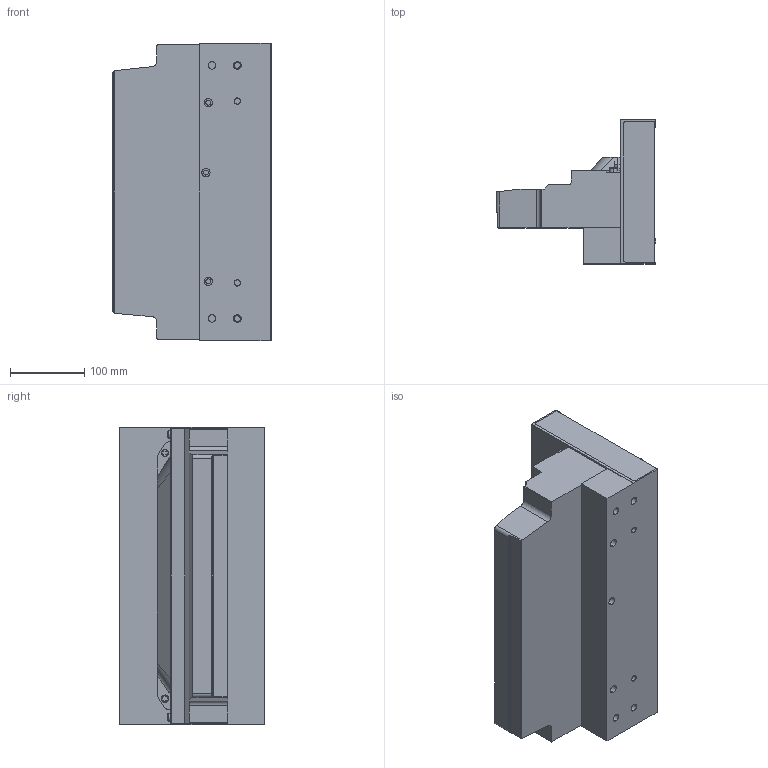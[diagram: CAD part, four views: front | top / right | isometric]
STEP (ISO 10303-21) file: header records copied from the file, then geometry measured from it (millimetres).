
FILE_DESCRIPTION((''),'2;1');
FILE_NAME('W0001038263','2024-08-14T11:40:23',('RRajan1'),('Rockwell Automation'),'CREO PARAMETRIC BY PTC INC, 2020281','CREO PARAMETRIC BY PTC INC, 2020281','');
FILE_SCHEMA(('CONFIG_CONTROL_DESIGN'));
Length unit declared in the file: millimetre
Products named in the file (1): W0001038263
Bounding box: 214.5 x 194 x 399.66 mm (x, y, z)
Volume: 8605312.4 mm3; surface area: 369748.1 mm2
Topology: 1 solids, 1 shells, 255 faces, 634 edges, 416 vertices
Faces by surface type: plane 136, cylinder 85, cone 24, extrusion 6, bspline 4
Entity records: 7986 total; most frequent: CARTESIAN_POINT 1729, DIRECTION 1302, ORIENTED_EDGE 1268, EDGE_CURVE 634, AXIS2_PLACEMENT_3D 441, VECTOR 420, VERTEX_POINT 416, LINE 414
